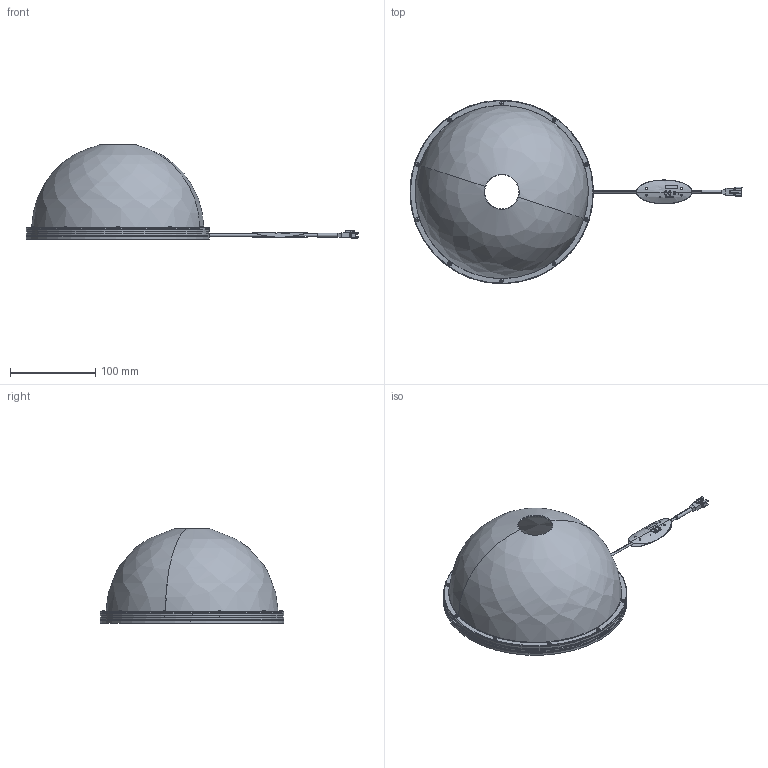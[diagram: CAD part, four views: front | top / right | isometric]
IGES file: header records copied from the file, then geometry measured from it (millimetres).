
Start section: 3D InterOp IGES (v. 2019 1.0.2), Spatial Corp. Copyright (c) 1999-2017.
Global section: file name: VDO-215_DRAWING_3D.iges; native system: Spatial Corp.; preprocessor: 3D InterOp ACIS/IGES; author: Noname; organization: Noname; date: 20230912.193550; units: millimetre
Bounding box: 389 x 215 x 111.01 mm (x, y, z)
Surface area: 223094.3 mm2 (no closed solid volume)
Topology: 0 solids, 0 shells, 853 faces, 4656 edges, 4569 vertices
Faces by surface type: extrusion 457, revolution 390, bspline 6
